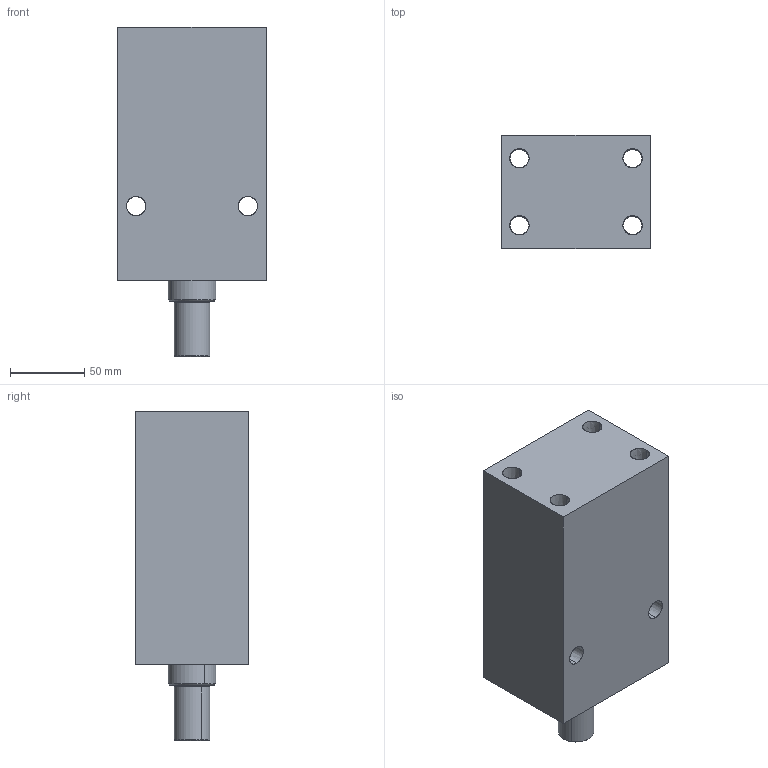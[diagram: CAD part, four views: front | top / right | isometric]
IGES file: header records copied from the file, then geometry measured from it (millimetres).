
Start section: SolidWorks IGES file using analytic representation for surfaces
Global section: file name: D:\karuppas\Clasp\3D model\Block cylinder B01C-Male thread - Copy\B01C-510M\Block cylinder B01C-510M.IGS; native system: SolidWorks 2017; preprocessor: SolidWorks 2017; author: pc; date: 220709.234405; units: millimetre
Bounding box: 100 x 76 x 221 mm (x, y, z)
Surface area: 133018.2 mm2 (no closed solid volume)
Topology: 0 solids, 0 shells, 338 faces, 5518 edges, 5514 vertices
Faces by surface type: bspline 296, revolution 42
